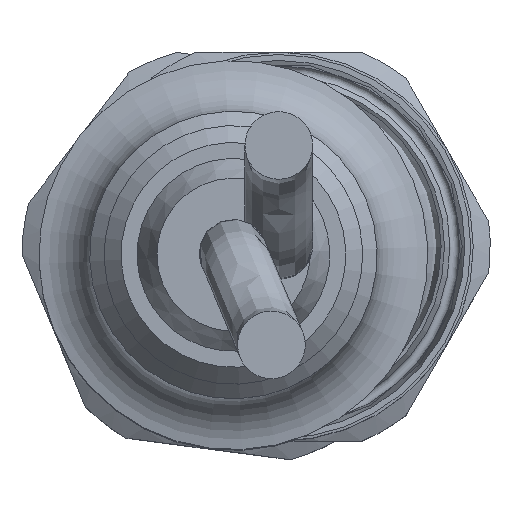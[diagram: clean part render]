
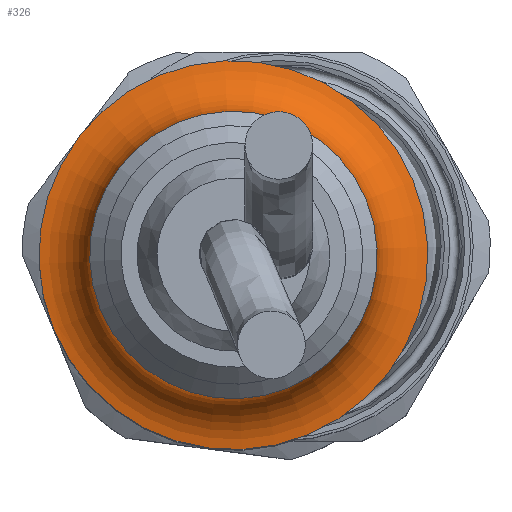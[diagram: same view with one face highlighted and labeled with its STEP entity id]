
A CAD part, top view. The second image highlights one B-rep face of the part: STEP entity #326.
In plain terms, the highlighted toroidal (fillet/blend) face has major radius 11.815 mm and minor radius 3.315 mm.
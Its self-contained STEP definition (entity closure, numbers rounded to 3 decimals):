
#326 = ADVANCED_FACE( '', ( #726, #727 ), #728, .F. );
#726 = FACE_OUTER_BOUND( '', #2046, .T. );
#727 = FACE_OUTER_BOUND( '', #2047, .T. );
#728 = TOROIDAL_SURFACE( '', #2048, 11.815, 3.315 );
#2046 = EDGE_LOOP( '', ( #3039 ) );
#2047 = EDGE_LOOP( '', ( #3040 ) );
#2048 = AXIS2_PLACEMENT_3D( '', #3041, #3042, #3043 );
#3039 = ORIENTED_EDGE( '', *, *, #3365, .T. );
#3040 = ORIENTED_EDGE( '', *, *, #3388, .F. );
#3041 = CARTESIAN_POINT( '', ( 0., 0., 10.5 ) );
#3042 = DIRECTION( '', ( 0., 0., 1. ) );
#3043 = DIRECTION( '', ( 1., 0., 0. ) );
#3365 = EDGE_CURVE( '', #3738, #3738, #3739, .T. );
#3388 = EDGE_CURVE( '', #3767, #3767, #3768, .T. );
#3738 = VERTEX_POINT( '', #4306 );
#3739 = CIRCLE( '', #4307, 11.5 );
#3767 = VERTEX_POINT( '', #4350 );
#3768 = CIRCLE( '', #4351, 8.5 );
#4306 = CARTESIAN_POINT( '', ( 11.5, 0., 7.2 ) );
#4307 = AXIS2_PLACEMENT_3D( '', #4658, #4659, #4660 );
#4350 = CARTESIAN_POINT( '', ( 8.5, 0., 10.5 ) );
#4351 = AXIS2_PLACEMENT_3D( '', #4674, #4675, #4676 );
#4658 = CARTESIAN_POINT( '', ( 0., 0., 7.2 ) );
#4659 = DIRECTION( '', ( 0., 0., 1. ) );
#4660 = DIRECTION( '', ( 1., 0., 0. ) );
#4674 = CARTESIAN_POINT( '', ( 0., 0., 10.5 ) );
#4675 = DIRECTION( '', ( 0., 0., 1. ) );
#4676 = DIRECTION( '', ( 1., 0., 0. ) );
